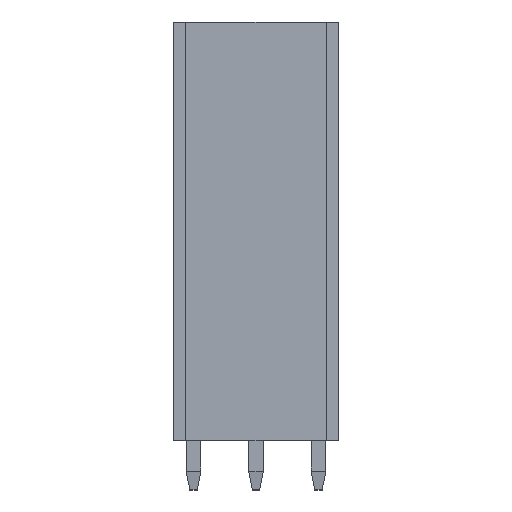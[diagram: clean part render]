
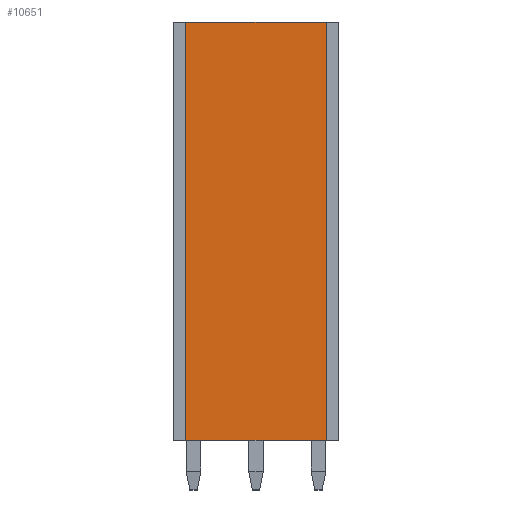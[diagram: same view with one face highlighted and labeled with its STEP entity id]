
A CAD part, top view. The second image highlights one B-rep face of the part: STEP entity #10651.
In plain terms, the highlighted planar face has unit normal (0, 0, 1).
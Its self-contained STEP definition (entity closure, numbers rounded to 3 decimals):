
#1060=DIRECTION('',(0.,-1.,0.));
#1061=VECTOR('',#1060,34.);
#1062=CARTESIAN_POINT('',(-5.7,16.5,26.92));
#1063=LINE('',#1062,#1061);
#1096=DIRECTION('',(1.,0.,0.));
#1097=VECTOR('',#1096,11.4);
#1098=CARTESIAN_POINT('',(-5.7,16.5,26.92));
#1099=LINE('',#1098,#1097);
#1100=DIRECTION('',(0.,-1.,0.));
#1101=VECTOR('',#1100,34.);
#1102=CARTESIAN_POINT('',(5.7,16.5,26.92));
#1103=LINE('',#1102,#1101);
#1104=DIRECTION('',(-1.,0.,0.));
#1105=VECTOR('',#1104,11.4);
#1106=CARTESIAN_POINT('',(5.7,-17.5,26.92));
#1107=LINE('',#1106,#1105);
#7001=CARTESIAN_POINT('',(5.7,16.5,26.92));
#7002=VERTEX_POINT('',#7001);
#7003=CARTESIAN_POINT('',(-5.7,16.5,26.92));
#7004=VERTEX_POINT('',#7003);
#7359=CARTESIAN_POINT('',(-5.7,-17.5,26.92));
#7360=VERTEX_POINT('',#7359);
#7361=CARTESIAN_POINT('',(5.7,-17.5,26.92));
#7362=VERTEX_POINT('',#7361);
#10639=CARTESIAN_POINT('',(0.,0.,26.92));
#10640=DIRECTION('',(0.,0.,1.));
#10641=DIRECTION('',(1.,0.,0.));
#10642=AXIS2_PLACEMENT_3D('',#10639,#10640,#10641);
#10643=PLANE('',#10642);
#10644=ORIENTED_EDGE('',*,*,#10598,.F.);
#10645=ORIENTED_EDGE('',*,*,#9533,.T.);
#10647=ORIENTED_EDGE('',*,*,#10646,.T.);
#10648=ORIENTED_EDGE('',*,*,#10609,.T.);
#10649=EDGE_LOOP('',(#10644,#10645,#10647,#10648));
#10650=FACE_OUTER_BOUND('',#10649,.F.);
#10651=ADVANCED_FACE('',(#10650),#10643,.T.);
#9533=EDGE_CURVE('',#7004,#7002,#1099,.T.);
#10598=EDGE_CURVE('',#7004,#7360,#1063,.T.);
#10609=EDGE_CURVE('',#7362,#7360,#1107,.T.);
#10646=EDGE_CURVE('',#7002,#7362,#1103,.T.);
